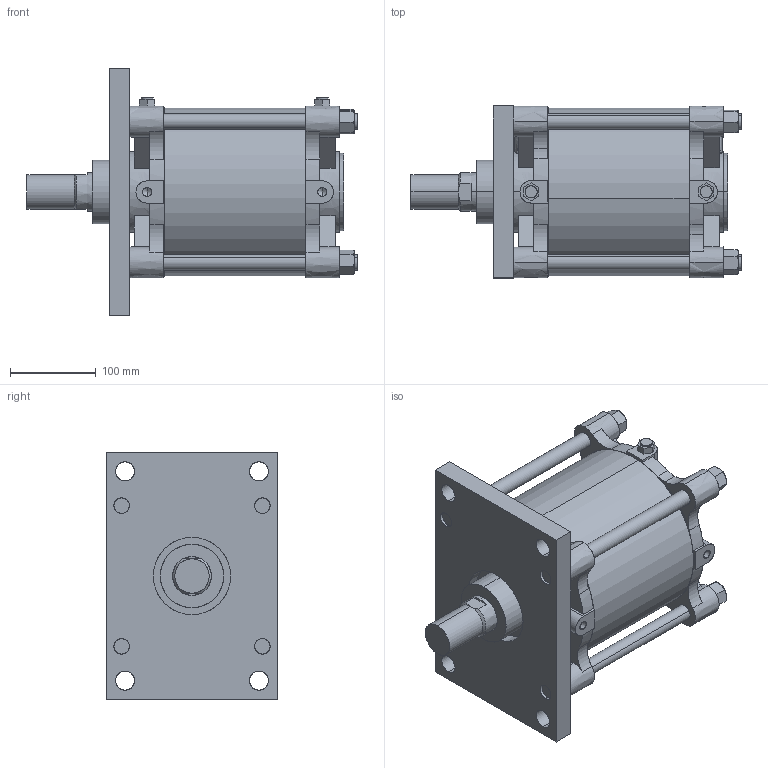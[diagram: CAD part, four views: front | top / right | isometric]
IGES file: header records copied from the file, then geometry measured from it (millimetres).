
Start section: SolidWorks IGES file using analytic representation for surfaces
Global section: file name: C:\Users\Toshiba\Desktop\A##2-180#-100-A.IGS; native system: SolidWorks 2014; preprocessor: SolidWorks 2014; author: Toshiba; date: 160331.145719; units: millimetre
Bounding box: 384.5 x 200 x 288 mm (x, y, z)
Surface area: 657539.7 mm2 (no closed solid volume)
Topology: 0 solids, 0 shells, 344 faces, 6797 edges, 6785 vertices
Faces by surface type: bspline 196, revolution 148
